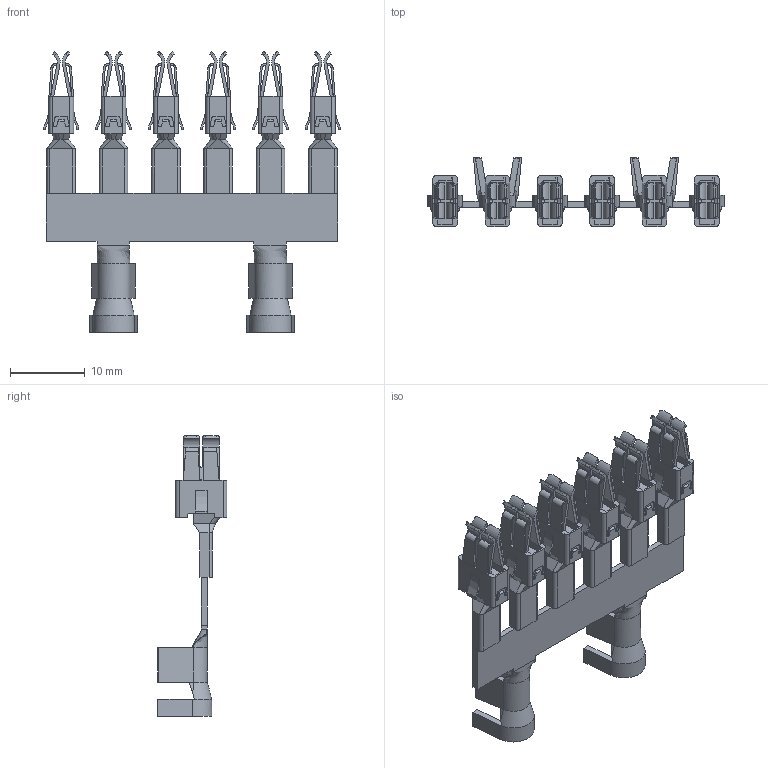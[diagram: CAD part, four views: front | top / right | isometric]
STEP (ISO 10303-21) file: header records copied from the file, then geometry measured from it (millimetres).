
FILE_DESCRIPTION((''),'2;1');
FILE_NAME('C-1989037-5','2016-03-14T',('workeradm'),('Tyco Electronics Ltd.'),'CREO PARAMETRIC BY PTC INC, 2015200','CREO PARAMETRIC BY PTC INC, 2015200','');
FILE_SCHEMA(('AUTOMOTIVE_DESIGN { 1 0 10303 214 1 1 1 1 }'));
Products named in the file (1): C-1989037-5
Bounding box: 39.7 x 9.3 x 37.6 mm (x, y, z)
Volume: 1370.4 mm3; surface area: 4217.8 mm2
Topology: 1 solids, 1 shells, 1282 faces, 3410 edges, 2154 vertices
Faces by surface type: plane 828, cylinder 386, bspline 68
Entity records: 49728 total; most frequent: CARTESIAN_POINT 18172, ORIENTED_EDGE 6820, DIRECTION 6180, EDGE_CURVE 3410, VECTOR 2532, LINE 2532, VERTEX_POINT 2154, AXIS2_PLACEMENT_3D 1824
